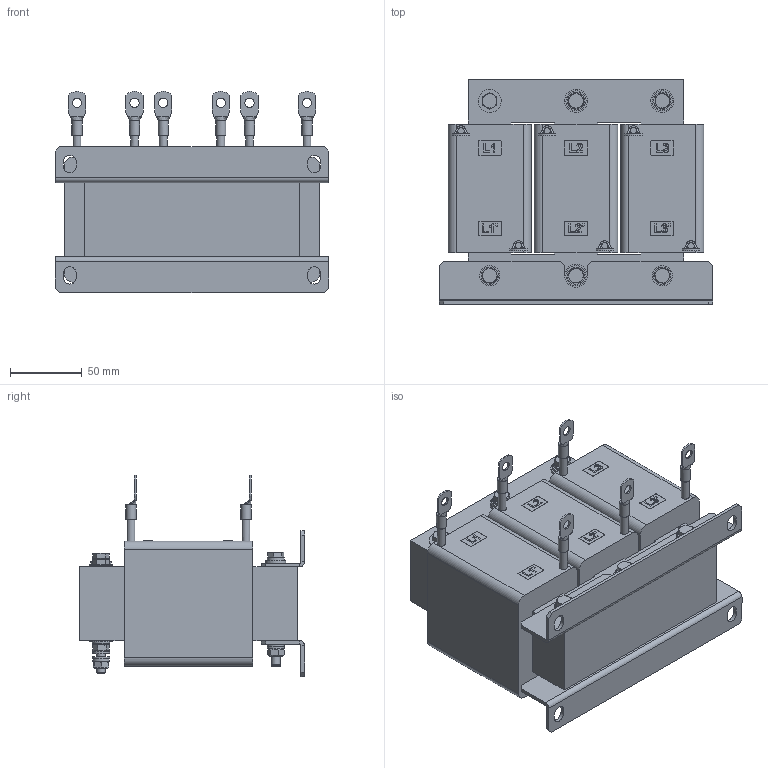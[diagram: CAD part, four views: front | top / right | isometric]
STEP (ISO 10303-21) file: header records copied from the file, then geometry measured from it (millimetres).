
FILE_DESCRIPTION(/* description */ ('raw material description'),/* implementation_level */ '2;1');
FILE_NAME(/* name */ 'P:\Construction\Filter_Marketing\RWK\RWK3044_RWK3062\RWK3044\RWK3044-48-92-E0XXX.stp',/* time_stamp */ '2018-12-10T10:10:22+01:00',/* author */ ('erika.jenzer'),/* organization */ ('Schaffner EMV AG'),/* preprocessor_version */ 'ST-DEVELOPER v16.5',/* originating_system */ 'Autodesk Inventor 2017',/* authorisation */ '');
FILE_SCHEMA (('AUTOMOTIVE_DESIGN { 1 0 10303 214 3 1 1 }'));
Length unit declared in the file: millimetre
Products named in the file (1): RWK3044-48-92-E0XXX
Bounding box: 190 x 156.6 x 140 mm (x, y, z)
Volume: 1880802.2 mm3; surface area: 183987.3 mm2
Topology: 1 solids, 13 shells, 1072 faces, 2763 edges, 1833 vertices
Faces by surface type: plane 706, cylinder 184, bspline 98, cone 71, torus 13
Full cylindrical faces by diameter (mm): 4.5 x6, 5.5 x6, 6 x19, 6.1 x6, 6.4 x20, 7 x6, 7.6 x5, 8.4 x3, 8.5 x4, 8.7 x6, 12 x12, 13 x1, 14 x5, 16 x4
Entity records: 33832 total; most frequent: CARTESIAN_POINT 9485, ORIENTED_EDGE 5134, DIRECTION 4574, EDGE_CURVE 2560, VERTEX_POINT 1788, AXIS2_PLACEMENT_3D 1551, LINE 1472, VECTOR 1472
